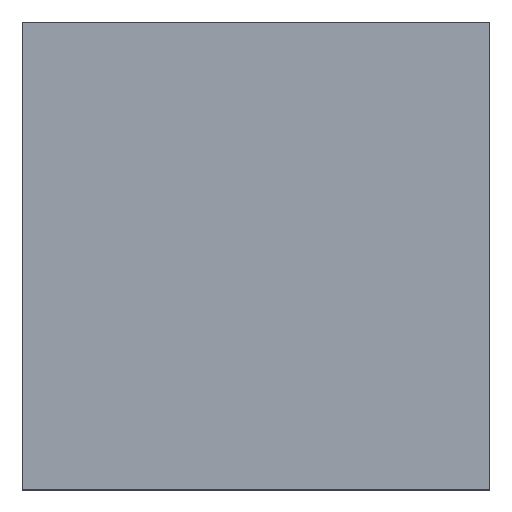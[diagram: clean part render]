
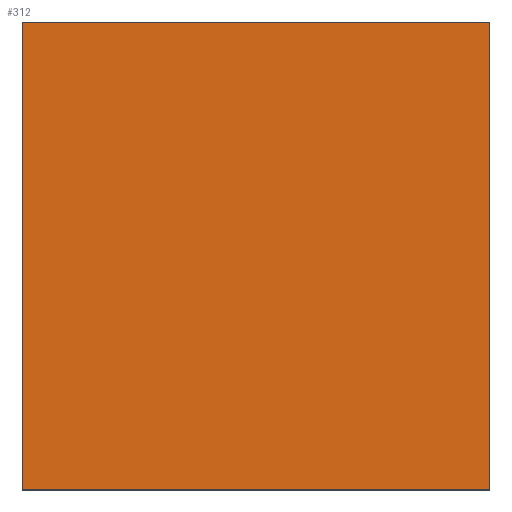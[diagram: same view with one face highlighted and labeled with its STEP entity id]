
A CAD part, top view. The second image highlights one B-rep face of the part: STEP entity #312.
In plain terms, the highlighted planar face has unit normal (0, 0, 1).
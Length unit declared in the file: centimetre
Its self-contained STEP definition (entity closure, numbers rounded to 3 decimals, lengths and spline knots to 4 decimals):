
#6 = CARTESIAN_POINT ( 'NONE',  ( 0., 0., 1000. ) ) ;
#26 = DIRECTION ( 'NONE',  ( 0., -1., 0. ) ) ;
#28 = CARTESIAN_POINT ( 'NONE',  ( 0., 1000., 1000. ) ) ;
#33 = LINE ( 'NONE', #298, #333 ) ;
#35 = CARTESIAN_POINT ( 'NONE',  ( 1000., 1000., 1000. ) ) ;
#37 = PLANE ( 'NONE',  #50 ) ;
#40 = LINE ( 'NONE', #6, #102 ) ;
#50 = AXIS2_PLACEMENT_3D ( 'NONE', #159, #323, #268 ) ;
#59 = EDGE_CURVE ( 'NONE', #334, #138, #180, .T. ) ;
#66 = VERTEX_POINT ( 'NONE', #121 ) ;
#75 = DIRECTION ( 'NONE',  ( 1., 0., 0. ) ) ;
#83 = EDGE_LOOP ( 'NONE', ( #225, #160, #131, #244 ) ) ;
#102 = VECTOR ( 'NONE', #75, 100. ) ;
#121 = CARTESIAN_POINT ( 'NONE',  ( 1000., 0., 1000. ) ) ;
#123 = LINE ( 'NONE', #35, #148 ) ;
#131 = ORIENTED_EDGE ( 'NONE', *, *, #212, .T. ) ;
#138 = VERTEX_POINT ( 'NONE', #260 ) ;
#148 = VECTOR ( 'NONE', #185, 100. ) ;
#159 = CARTESIAN_POINT ( 'NONE',  ( 0., 0., 1000. ) ) ;
#160 = ORIENTED_EDGE ( 'NONE', *, *, #286, .T. ) ;
#180 = LINE ( 'NONE', #28, #332 ) ;
#185 = DIRECTION ( 'NONE',  ( 0., 1., 0. ) ) ;
#212 = EDGE_CURVE ( 'NONE', #66, #297, #123, .T. ) ;
#219 = FACE_OUTER_BOUND ( 'NONE', #83, .T. ) ;
#225 = ORIENTED_EDGE ( 'NONE', *, *, #59, .T. ) ;
#244 = ORIENTED_EDGE ( 'NONE', *, *, #258, .T. ) ;
#245 = DIRECTION ( 'NONE',  ( -1., 0., 0. ) ) ;
#258 = EDGE_CURVE ( 'NONE', #297, #334, #33, .T. ) ;
#260 = CARTESIAN_POINT ( 'NONE',  ( 0., 0., 1000. ) ) ;
#268 = DIRECTION ( 'NONE',  ( 1., 0., 0. ) ) ;
#274 = CARTESIAN_POINT ( 'NONE',  ( 0., 1000., 1000. ) ) ;
#286 = EDGE_CURVE ( 'NONE', #138, #66, #40, .T. ) ;
#295 = CARTESIAN_POINT ( 'NONE',  ( 1000., 1000., 1000. ) ) ;
#297 = VERTEX_POINT ( 'NONE', #295 ) ;
#298 = CARTESIAN_POINT ( 'NONE',  ( 0., 1000., 1000. ) ) ;
#312 = ADVANCED_FACE ( 'NONE', ( #219 ), #37, .T. ) ;
#323 = DIRECTION ( 'NONE',  ( 0., 0., 1. ) ) ;
#332 = VECTOR ( 'NONE', #26, 100. ) ;
#333 = VECTOR ( 'NONE', #245, 100. ) ;
#334 = VERTEX_POINT ( 'NONE', #274 ) ;
